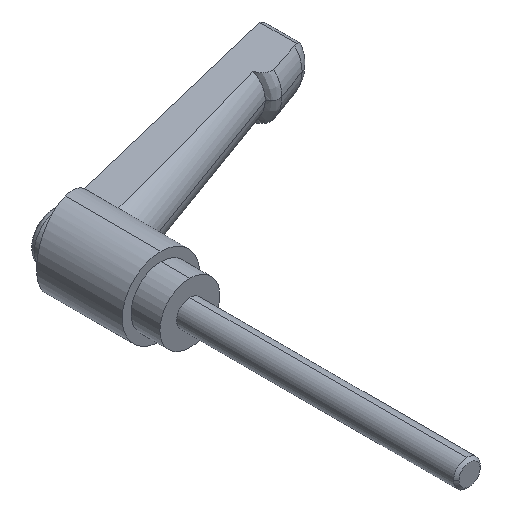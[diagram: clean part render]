
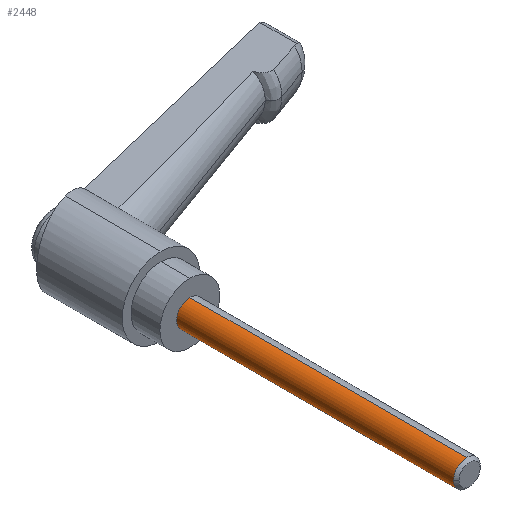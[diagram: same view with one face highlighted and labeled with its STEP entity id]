
A CAD part, isometric view. The second image highlights one B-rep face of the part: STEP entity #2448.
In plain terms, the highlighted cylindrical face has radius 3 mm (diameter 6 mm), a partial arc.
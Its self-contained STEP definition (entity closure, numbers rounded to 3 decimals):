
#67 = EDGE_CURVE ( 'NONE', #1848, #1636, #2214, .T. ) ;
#97 = DIRECTION ( 'NONE',  ( 0., 0., -1. ) ) ;
#115 = VECTOR ( 'NONE', #1556, 1000. ) ;
#171 = DIRECTION ( 'NONE',  ( 0., 1., 0. ) ) ;
#185 = CARTESIAN_POINT ( 'NONE',  ( 0., -63., 3. ) ) ;
#206 = DIRECTION ( 'NONE',  ( 0., -1., 0. ) ) ;
#271 = CYLINDRICAL_SURFACE ( 'NONE', #2262, 3. ) ;
#312 = LINE ( 'NONE', #1866, #1251 ) ;
#458 = EDGE_CURVE ( 'NONE', #1330, #1479, #1735, .T. ) ;
#467 = AXIS2_PLACEMENT_3D ( 'NONE', #2663, #1313, #2616 ) ;
#832 = CARTESIAN_POINT ( 'NONE',  ( 0., -63., 0. ) ) ;
#1013 = CIRCLE ( 'NONE', #467, 3. ) ;
#1042 = CARTESIAN_POINT ( 'NONE',  ( 0., -62.386, 0. ) ) ;
#1053 = DIRECTION ( 'NONE',  ( 0., 0., -1. ) ) ;
#1094 = ORIENTED_EDGE ( 'NONE', *, *, #1672, .T. ) ;
#1139 = CARTESIAN_POINT ( 'NONE',  ( 0., -62.386, -3. ) ) ;
#1251 = VECTOR ( 'NONE', #1663, 1000. ) ;
#1301 = VERTEX_POINT ( 'NONE', #1997 ) ;
#1313 = DIRECTION ( 'NONE',  ( 0., -1., 0. ) ) ;
#1330 = VERTEX_POINT ( 'NONE', #1139 ) ;
#1343 = DIRECTION ( 'NONE',  ( 0., 0., -1. ) ) ;
#1356 = FACE_OUTER_BOUND ( 'NONE', #1869, .T. ) ;
#1392 = CARTESIAN_POINT ( 'NONE',  ( 0., 0., 3. ) ) ;
#1459 = CIRCLE ( 'NONE', #2390, 3. ) ;
#1479 = VERTEX_POINT ( 'NONE', #2826 ) ;
#1556 = DIRECTION ( 'NONE',  ( 0., -1., 0. ) ) ;
#1636 = VERTEX_POINT ( 'NONE', #2326 ) ;
#1663 = DIRECTION ( 'NONE',  ( 0., -1., 0. ) ) ;
#1672 = EDGE_CURVE ( 'NONE', #1301, #1330, #312, .T. ) ;
#1700 = CARTESIAN_POINT ( 'NONE',  ( 0., -62.386, 0. ) ) ;
#1735 = CIRCLE ( 'NONE', #2567, 3. ) ;
#1848 = VERTEX_POINT ( 'NONE', #1392 ) ;
#1866 = CARTESIAN_POINT ( 'NONE',  ( 0., -63., -3. ) ) ;
#1869 = EDGE_LOOP ( 'NONE', ( #2139, #2692, #1094, #2359, #1954 ) ) ;
#1954 = ORIENTED_EDGE ( 'NONE', *, *, #2007, .T. ) ;
#1997 = CARTESIAN_POINT ( 'NONE',  ( 0., 0., -3. ) ) ;
#2007 = EDGE_CURVE ( 'NONE', #1479, #1636, #1459, .T. ) ;
#2139 = ORIENTED_EDGE ( 'NONE', *, *, #67, .F. ) ;
#2214 = LINE ( 'NONE', #185, #115 ) ;
#2262 = AXIS2_PLACEMENT_3D ( 'NONE', #832, #206, #1343 ) ;
#2326 = CARTESIAN_POINT ( 'NONE',  ( 0., -62.386, 3. ) ) ;
#2359 = ORIENTED_EDGE ( 'NONE', *, *, #458, .T. ) ;
#2390 = AXIS2_PLACEMENT_3D ( 'NONE', #1700, #171, #1053 ) ;
#2448 = ADVANCED_FACE ( 'NONE', ( #1356 ), #271, .T. ) ;
#2464 = EDGE_CURVE ( 'NONE', #1848, #1301, #1013, .T. ) ;
#2545 = DIRECTION ( 'NONE',  ( 0., 1., 0. ) ) ;
#2567 = AXIS2_PLACEMENT_3D ( 'NONE', #1042, #2545, #97 ) ;
#2616 = DIRECTION ( 'NONE',  ( 0., 0., -1. ) ) ;
#2663 = CARTESIAN_POINT ( 'NONE',  ( 0., 0., 0. ) ) ;
#2692 = ORIENTED_EDGE ( 'NONE', *, *, #2464, .T. ) ;
#2826 = CARTESIAN_POINT ( 'NONE',  ( -3., -62.386, 0. ) ) ;
